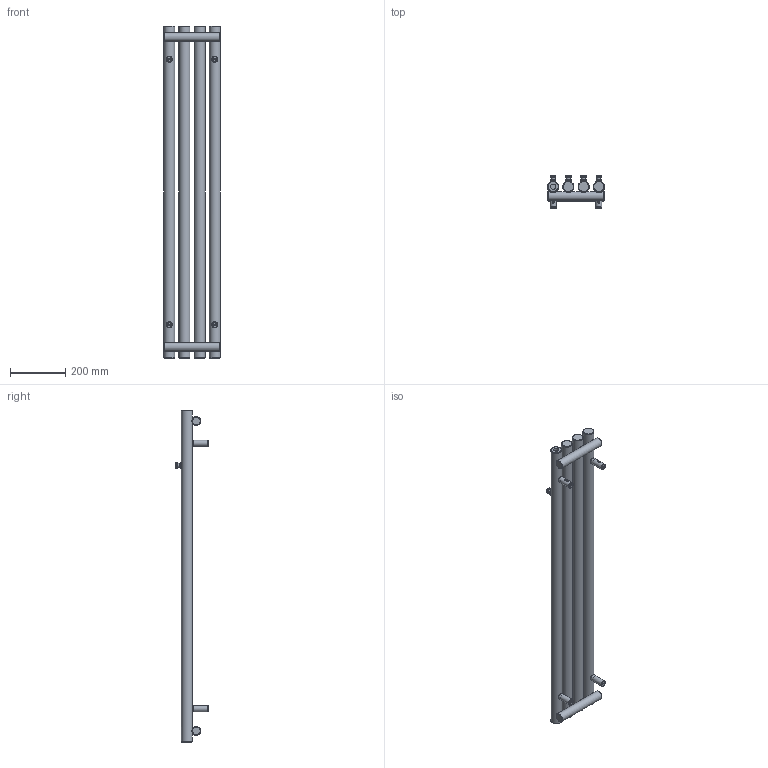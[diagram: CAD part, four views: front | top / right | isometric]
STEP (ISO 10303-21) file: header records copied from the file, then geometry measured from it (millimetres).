
FILE_DESCRIPTION(/* description */ (''),/* implementation_level */ '2;1');
FILE_NAME(/* name */ 'Z:\R\G\P\RGP116 - Grzejniki Geyser\Work\Inventor\Circolo (Rolo V, Rolo H)\ROLO-HANGER\Marketing\Bryły\Zaokrąglone\WGROW120020-SX-CK-(Z).stp',/* time_stamp */ '2024-02-02T13:25:49+01:00',/* author */ ('NowAd'),/* organization */ (''),/* preprocessor_version */ 'ST-DEVELOPER v17.2',/* originating_system */ 'Autodesk Inventor 2019',/* authorisation */ '');
FILE_SCHEMA (('AUTOMOTIVE_DESIGN { 1 0 10303 214 3 1 1 }'));
Length unit declared in the file: millimetre
Products named in the file (3): WGROR120020-SX-CK-(Z); PGROR120020-SX-CK-(K); CK-V-fi40 marketing
Assembly tree (5 placements, depth 2):
  WGROR120020-SX-CK-(Z)
    PGROR120020-SX-CK-(K)
    CK-V-fi40 marketing  x4
Bounding box: 205 x 116.5 x 1200 mm (x, y, z)
Volume: 6420348 mm3; surface area: 690920.1 mm2
Topology: 5 solids, 5 shells, 360 faces, 917 edges, 620 vertices
Faces by surface type: plane 143, cylinder 85, torus 60, cone 60, bspline 12
Full cylindrical faces by diameter (mm): 4.134 x4, 4.48 x4, 6.4 x4, 10 x4, 12 x4, 14 x4, 15.834 x4, 16 x4, 18.631 x3, 20 x8, 22 x4, 32 x2, 40 x4
Entity records: 7962 total; most frequent: CARTESIAN_POINT 3509, DIRECTION 970, ORIENTED_EDGE 880, EDGE_CURVE 440, AXIS2_PLACEMENT_3D 440, VERTEX_POINT 306, CIRCLE 259, EDGE_LOOP 224
